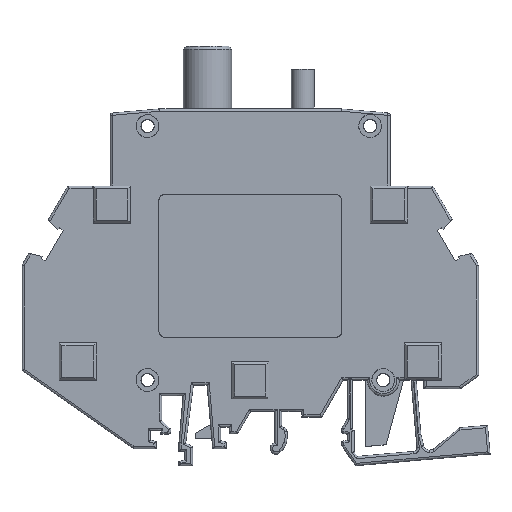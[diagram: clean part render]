
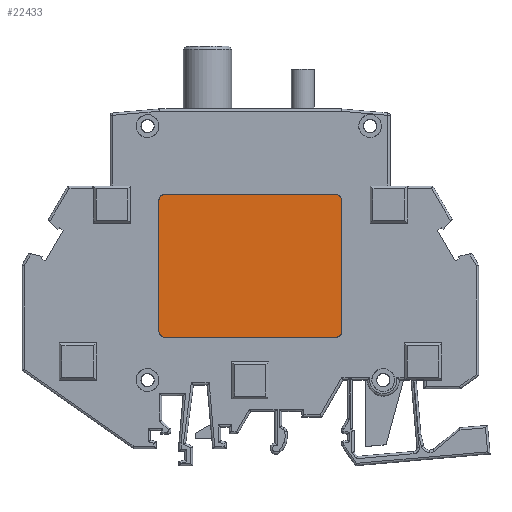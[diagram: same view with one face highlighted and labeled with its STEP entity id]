
A CAD part, top view. The second image highlights one B-rep face of the part: STEP entity #22433.
In plain terms, the highlighted planar face has unit normal (0, 0, 1).
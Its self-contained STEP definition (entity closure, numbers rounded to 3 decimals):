
#22347=CARTESIAN_POINT('',(-16.,37.,5.65));
#22348=CARTESIAN_POINT('',(-15.999,37.108,5.65));
#22349=CARTESIAN_POINT('',(-15.967,37.312,5.65));
#22350=CARTESIAN_POINT('',(-15.822,37.598,5.65));
#22351=CARTESIAN_POINT('',(-15.598,37.822,5.65));
#22352=CARTESIAN_POINT('',(-15.312,37.967,5.65));
#22353=CARTESIAN_POINT('',(-15.108,37.999,5.65));
#22354=CARTESIAN_POINT('',(-15.,38.,5.65));
#22356=DIRECTION('',(1.,0.,0.));
#22357=VECTOR('',#22356,30.);
#22358=CARTESIAN_POINT('',(-15.,38.,5.65));
#22359=LINE('',#22358,#22357);
#22360=CARTESIAN_POINT('',(15.,38.,5.65));
#22361=CARTESIAN_POINT('',(15.108,37.999,5.65));
#22362=CARTESIAN_POINT('',(15.312,37.967,5.65));
#22363=CARTESIAN_POINT('',(15.598,37.822,5.65));
#22364=CARTESIAN_POINT('',(15.822,37.598,5.65));
#22365=CARTESIAN_POINT('',(15.967,37.312,5.65));
#22366=CARTESIAN_POINT('',(15.999,37.108,5.65));
#22367=CARTESIAN_POINT('',(16.,37.,5.65));
#22369=DIRECTION('',(0.,-1.,0.));
#22370=VECTOR('',#22369,23.);
#22371=CARTESIAN_POINT('',(16.,37.,5.65));
#22372=LINE('',#22371,#22370);
#22373=CARTESIAN_POINT('',(16.,14.,5.65));
#22374=CARTESIAN_POINT('',(15.999,13.892,5.65));
#22375=CARTESIAN_POINT('',(15.967,13.688,5.65));
#22376=CARTESIAN_POINT('',(15.822,13.402,5.65));
#22377=CARTESIAN_POINT('',(15.598,13.178,5.65));
#22378=CARTESIAN_POINT('',(15.312,13.033,5.65));
#22379=CARTESIAN_POINT('',(15.108,13.001,5.65));
#22380=CARTESIAN_POINT('',(15.,13.,5.65));
#22382=DIRECTION('',(-1.,0.,0.));
#22383=VECTOR('',#22382,30.);
#22384=CARTESIAN_POINT('',(15.,13.,5.65));
#22385=LINE('',#22384,#22383);
#22386=CARTESIAN_POINT('',(-15.,13.,5.65));
#22387=CARTESIAN_POINT('',(-15.108,13.001,5.65));
#22388=CARTESIAN_POINT('',(-15.312,13.033,5.65));
#22389=CARTESIAN_POINT('',(-15.598,13.178,5.65));
#22390=CARTESIAN_POINT('',(-15.822,13.402,5.65));
#22391=CARTESIAN_POINT('',(-15.967,13.688,5.65));
#22392=CARTESIAN_POINT('',(-15.999,13.892,5.65));
#22393=CARTESIAN_POINT('',(-16.,14.,5.65));
#22395=DIRECTION('',(0.,1.,0.));
#22396=VECTOR('',#22395,23.);
#22397=CARTESIAN_POINT('',(-16.,14.,5.65));
#22398=LINE('',#22397,#22396);
#22399=VERTEX_POINT('',#22347);
#22400=VERTEX_POINT('',#22354);
#22401=CARTESIAN_POINT('',(15.,38.,5.65));
#22402=VERTEX_POINT('',#22401);
#22403=VERTEX_POINT('',#22367);
#22404=CARTESIAN_POINT('',(16.,14.,5.65));
#22405=VERTEX_POINT('',#22404);
#22406=VERTEX_POINT('',#22380);
#22407=CARTESIAN_POINT('',(-15.,13.,5.65));
#22408=VERTEX_POINT('',#22407);
#22409=VERTEX_POINT('',#22393);
#22410=CARTESIAN_POINT('',(0.,25.5,5.65));
#22411=DIRECTION('',(0.,0.,1.));
#22412=DIRECTION('',(1.,0.,0.));
#22413=AXIS2_PLACEMENT_3D('',#22410,#22411,#22412);
#22414=PLANE('',#22413);
#22416=ORIENTED_EDGE('',*,*,#22415,.T.);
#22418=ORIENTED_EDGE('',*,*,#22417,.T.);
#22420=ORIENTED_EDGE('',*,*,#22419,.T.);
#22422=ORIENTED_EDGE('',*,*,#22421,.T.);
#22424=ORIENTED_EDGE('',*,*,#22423,.T.);
#22426=ORIENTED_EDGE('',*,*,#22425,.T.);
#22428=ORIENTED_EDGE('',*,*,#22427,.T.);
#22430=ORIENTED_EDGE('',*,*,#22429,.T.);
#22431=EDGE_LOOP('',(#22416,#22418,#22420,#22422,#22424,#22426,#22428,#22430));
#22432=FACE_OUTER_BOUND('',#22431,.F.);
#22433=ADVANCED_FACE('',(#22432),#22414,.T.);
#22355=B_SPLINE_CURVE_WITH_KNOTS('',3,(#22347,#22348,#22349,#22350,#22351,
#22352,#22353,#22354),.UNSPECIFIED.,.F.,.F.,(4,1,1,1,1,4),(0.,0.2,0.4,
0.6,0.8,1.),.UNSPECIFIED.);
#22368=B_SPLINE_CURVE_WITH_KNOTS('',3,(#22360,#22361,#22362,#22363,#22364,
#22365,#22366,#22367),.UNSPECIFIED.,.F.,.F.,(4,1,1,1,1,4),(0.,0.2,0.4,
0.6,0.8,1.),.UNSPECIFIED.);
#22381=B_SPLINE_CURVE_WITH_KNOTS('',3,(#22373,#22374,#22375,#22376,#22377,
#22378,#22379,#22380),.UNSPECIFIED.,.F.,.F.,(4,1,1,1,1,4),(0.,0.2,0.4,
0.6,0.8,1.),.UNSPECIFIED.);
#22394=B_SPLINE_CURVE_WITH_KNOTS('',3,(#22386,#22387,#22388,#22389,#22390,
#22391,#22392,#22393),.UNSPECIFIED.,.F.,.F.,(4,1,1,1,1,4),(0.,0.2,0.4,
0.6,0.8,1.),.UNSPECIFIED.);
#22415=EDGE_CURVE('',#22399,#22400,#22355,.T.);
#22417=EDGE_CURVE('',#22400,#22402,#22359,.T.);
#22419=EDGE_CURVE('',#22402,#22403,#22368,.T.);
#22421=EDGE_CURVE('',#22403,#22405,#22372,.T.);
#22423=EDGE_CURVE('',#22405,#22406,#22381,.T.);
#22425=EDGE_CURVE('',#22406,#22408,#22385,.T.);
#22427=EDGE_CURVE('',#22408,#22409,#22394,.T.);
#22429=EDGE_CURVE('',#22409,#22399,#22398,.T.);
